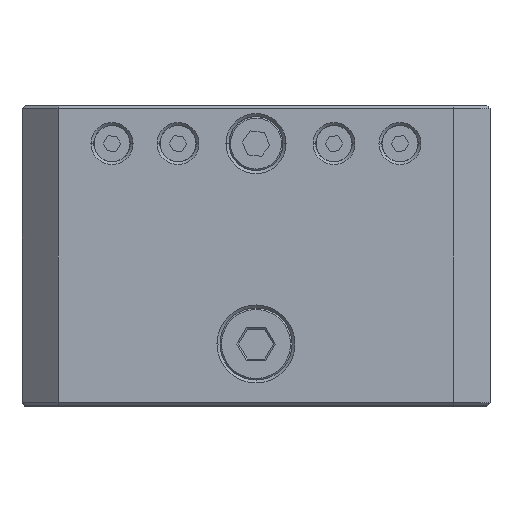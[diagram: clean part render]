
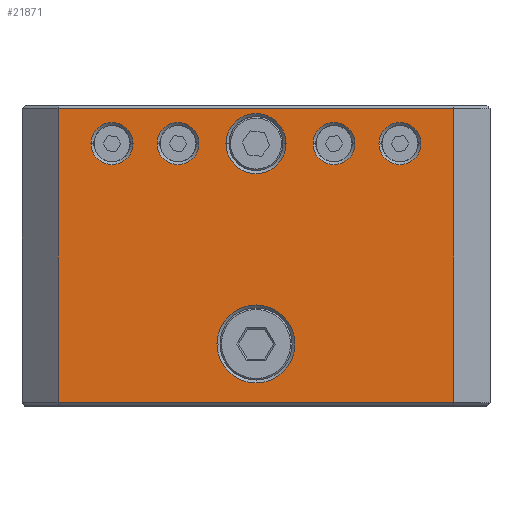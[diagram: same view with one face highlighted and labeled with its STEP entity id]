
A CAD part, top view. The second image highlights one B-rep face of the part: STEP entity #21871.
In plain terms, the highlighted planar face has unit normal (0, 0, 1).
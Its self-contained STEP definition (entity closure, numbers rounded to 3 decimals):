
#102 = ORIENTED_EDGE ( 'NONE', *, *, #7556, .T. ) ;
#172 = VERTEX_POINT ( 'NONE', #8548 ) ;
#338 = DIRECTION ( 'NONE',  ( 0., 0., -1. ) ) ;
#567 = PLANE ( 'NONE',  #7330 ) ;
#603 = EDGE_CURVE ( 'NONE', #10288, #172, #17571, .T. ) ;
#685 = DIRECTION ( 'NONE',  ( 0., 0., -1. ) ) ;
#795 = FACE_BOUND ( 'NONE', #2173, .T. ) ;
#829 = EDGE_CURVE ( 'NONE', #10880, #5640, #11421, .T. ) ;
#1545 = EDGE_CURVE ( 'NONE', #4424, #10068, #8769, .T. ) ;
#2173 = EDGE_LOOP ( 'NONE', ( #6449, #22894 ) ) ;
#2210 = AXIS2_PLACEMENT_3D ( 'NONE', #6385, #13496, #11744 ) ;
#2257 = EDGE_CURVE ( 'NONE', #5640, #10880, #17180, .T. ) ;
#2349 = DIRECTION ( 'NONE',  ( 0., 0., -1. ) ) ;
#2355 = EDGE_LOOP ( 'NONE', ( #17687, #13151 ) ) ;
#2377 = CARTESIAN_POINT ( 'NONE',  ( 66., 1., 96. ) ) ;
#2574 = FACE_BOUND ( 'NONE', #5787, .T. ) ;
#2609 = VERTEX_POINT ( 'NONE', #14057 ) ;
#2866 = VECTOR ( 'NONE', #9357, 1000. ) ;
#3048 = CARTESIAN_POINT ( 'NONE',  ( -10., 87.3, 96. ) ) ;
#3236 = ORIENTED_EDGE ( 'NONE', *, *, #15574, .T. ) ;
#3380 = LINE ( 'NONE', #8557, #19567 ) ;
#3527 = CARTESIAN_POINT ( 'NONE',  ( 0., 87.3, 96. ) ) ;
#4060 = EDGE_CURVE ( 'NONE', #13694, #21447, #9631, .T. ) ;
#4195 = DIRECTION ( 'NONE',  ( -1., 0., 0. ) ) ;
#4287 = CIRCLE ( 'NONE', #18517, 13. ) ;
#4424 = VERTEX_POINT ( 'NONE', #21079 ) ;
#4613 = CARTESIAN_POINT ( 'NONE',  ( 55., 87.3, 96. ) ) ;
#4660 = VERTEX_POINT ( 'NONE', #16474 ) ;
#4671 = CIRCLE ( 'NONE', #12129, 7. ) ;
#5640 = VERTEX_POINT ( 'NONE', #6509 ) ;
#5787 = EDGE_LOOP ( 'NONE', ( #12271, #3236 ) ) ;
#5829 = DIRECTION ( 'NONE',  ( 0., 0., -1. ) ) ;
#5889 = CARTESIAN_POINT ( 'NONE',  ( 0., 87.3, 96. ) ) ;
#5945 = AXIS2_PLACEMENT_3D ( 'NONE', #16520, #13200, #4195 ) ;
#6020 = EDGE_LOOP ( 'NONE', ( #17528, #23115 ) ) ;
#6245 = VERTEX_POINT ( 'NONE', #2377 ) ;
#6385 = CARTESIAN_POINT ( 'NONE',  ( 26., 87.3, 96. ) ) ;
#6424 = CARTESIAN_POINT ( 'NONE',  ( 13., 20.5, 96. ) ) ;
#6449 = ORIENTED_EDGE ( 'NONE', *, *, #2257, .T. ) ;
#6492 = DIRECTION ( 'NONE',  ( 1., 0., 0. ) ) ;
#6509 = CARTESIAN_POINT ( 'NONE',  ( -19., 87.3, 96. ) ) ;
#7265 = DIRECTION ( 'NONE',  ( -1., 0., 0. ) ) ;
#7330 = AXIS2_PLACEMENT_3D ( 'NONE', #22054, #685, #13142 ) ;
#7398 = CARTESIAN_POINT ( 'NONE',  ( -66., 100., 96. ) ) ;
#7526 = DIRECTION ( 'NONE',  ( 0., 0., -1. ) ) ;
#7556 = EDGE_CURVE ( 'NONE', #6245, #4424, #3380, .T. ) ;
#7699 = CARTESIAN_POINT ( 'NONE',  ( 0., 20.5, 96. ) ) ;
#7809 = AXIS2_PLACEMENT_3D ( 'NONE', #9899, #8017, #11650 ) ;
#8017 = DIRECTION ( 'NONE',  ( 0., 0., -1. ) ) ;
#8196 = CIRCLE ( 'NONE', #21294, 7. ) ;
#8392 = AXIS2_PLACEMENT_3D ( 'NONE', #7699, #22220, #18844 ) ;
#8548 = CARTESIAN_POINT ( 'NONE',  ( 19., 87.3, 96. ) ) ;
#8557 = CARTESIAN_POINT ( 'NONE',  ( 66., 100., 96. ) ) ;
#8675 = EDGE_CURVE ( 'NONE', #2609, #19446, #18330, .T. ) ;
#8762 = CIRCLE ( 'NONE', #12874, 10. ) ;
#8769 = LINE ( 'NONE', #15917, #2866 ) ;
#9038 = CARTESIAN_POINT ( 'NONE',  ( -48., 87.3, 96. ) ) ;
#9040 = ORIENTED_EDGE ( 'NONE', *, *, #8675, .T. ) ;
#9118 = VERTEX_POINT ( 'NONE', #14842 ) ;
#9357 = DIRECTION ( 'NONE',  ( -1., 0., 0. ) ) ;
#9404 = FACE_BOUND ( 'NONE', #14009, .T. ) ;
#9509 = FACE_BOUND ( 'NONE', #2355, .T. ) ;
#9516 = CIRCLE ( 'NONE', #8392, 13. ) ;
#9631 = CIRCLE ( 'NONE', #21273, 10. ) ;
#9742 = FACE_OUTER_BOUND ( 'NONE', #12025, .T. ) ;
#9899 = CARTESIAN_POINT ( 'NONE',  ( -48., 87.3, 96. ) ) ;
#10034 = EDGE_LOOP ( 'NONE', ( #13743, #10808 ) ) ;
#10068 = VERTEX_POINT ( 'NONE', #11328 ) ;
#10108 = EDGE_CURVE ( 'NONE', #12022, #4660, #8196, .T. ) ;
#10288 = VERTEX_POINT ( 'NONE', #16256 ) ;
#10299 = DIRECTION ( 'NONE',  ( 0., 0., -1. ) ) ;
#10703 = DIRECTION ( 'NONE',  ( 0., 0., -1. ) ) ;
#10796 = EDGE_CURVE ( 'NONE', #9118, #12219, #9516, .T. ) ;
#10808 = ORIENTED_EDGE ( 'NONE', *, *, #19512, .T. ) ;
#10880 = VERTEX_POINT ( 'NONE', #13537 ) ;
#10888 = CARTESIAN_POINT ( 'NONE',  ( 48., 87.3, 96. ) ) ;
#11074 = EDGE_CURVE ( 'NONE', #19446, #2609, #4671, .T. ) ;
#11275 = FACE_BOUND ( 'NONE', #10034, .T. ) ;
#11328 = CARTESIAN_POINT ( 'NONE',  ( -66., 99., 96. ) ) ;
#11389 = CARTESIAN_POINT ( 'NONE',  ( 0., 20.5, 96. ) ) ;
#11421 = CIRCLE ( 'NONE', #18934, 7. ) ;
#11650 = DIRECTION ( 'NONE',  ( -1., 0., 0. ) ) ;
#11744 = DIRECTION ( 'NONE',  ( -1., 0., 0. ) ) ;
#11858 = AXIS2_PLACEMENT_3D ( 'NONE', #16102, #338, #21471 ) ;
#12022 = VERTEX_POINT ( 'NONE', #4613 ) ;
#12025 = EDGE_LOOP ( 'NONE', ( #14193, #22877, #102, #16075 ) ) ;
#12129 = AXIS2_PLACEMENT_3D ( 'NONE', #9038, #13957, #7265 ) ;
#12219 = VERTEX_POINT ( 'NONE', #6424 ) ;
#12271 = ORIENTED_EDGE ( 'NONE', *, *, #4060, .T. ) ;
#12703 = ORIENTED_EDGE ( 'NONE', *, *, #11074, .T. ) ;
#12874 = AXIS2_PLACEMENT_3D ( 'NONE', #5889, #2349, #20408 ) ;
#12902 = CARTESIAN_POINT ( 'NONE',  ( 10., 87.3, 96. ) ) ;
#13142 = DIRECTION ( 'NONE',  ( -1., 0., 0. ) ) ;
#13151 = ORIENTED_EDGE ( 'NONE', *, *, #10796, .T. ) ;
#13200 = DIRECTION ( 'NONE',  ( 0., 0., -1. ) ) ;
#13496 = DIRECTION ( 'NONE',  ( 0., 0., -1. ) ) ;
#13537 = CARTESIAN_POINT ( 'NONE',  ( -33., 87.3, 96. ) ) ;
#13694 = VERTEX_POINT ( 'NONE', #12902 ) ;
#13733 = CARTESIAN_POINT ( 'NONE',  ( -66., 1., 96. ) ) ;
#13743 = ORIENTED_EDGE ( 'NONE', *, *, #603, .T. ) ;
#13936 = EDGE_CURVE ( 'NONE', #4660, #12022, #16902, .T. ) ;
#13957 = DIRECTION ( 'NONE',  ( 0., 0., -1. ) ) ;
#14009 = EDGE_LOOP ( 'NONE', ( #9040, #12703 ) ) ;
#14057 = CARTESIAN_POINT ( 'NONE',  ( -41., 87.3, 96. ) ) ;
#14193 = ORIENTED_EDGE ( 'NONE', *, *, #20174, .T. ) ;
#14565 = DIRECTION ( 'NONE',  ( 0., -1., 0. ) ) ;
#14842 = CARTESIAN_POINT ( 'NONE',  ( -13., 20.5, 96. ) ) ;
#15481 = EDGE_CURVE ( 'NONE', #12219, #9118, #4287, .T. ) ;
#15574 = EDGE_CURVE ( 'NONE', #21447, #13694, #8762, .T. ) ;
#15903 = VECTOR ( 'NONE', #6492, 1000. ) ;
#15917 = CARTESIAN_POINT ( 'NONE',  ( -66., 99., 96. ) ) ;
#15977 = LINE ( 'NONE', #17402, #15903 ) ;
#16024 = CARTESIAN_POINT ( 'NONE',  ( 48., 87.3, 96. ) ) ;
#16075 = ORIENTED_EDGE ( 'NONE', *, *, #1545, .T. ) ;
#16102 = CARTESIAN_POINT ( 'NONE',  ( 26., 87.3, 96. ) ) ;
#16256 = CARTESIAN_POINT ( 'NONE',  ( 33., 87.3, 96. ) ) ;
#16455 = CARTESIAN_POINT ( 'NONE',  ( -26., 87.3, 96. ) ) ;
#16474 = CARTESIAN_POINT ( 'NONE',  ( 41., 87.3, 96. ) ) ;
#16520 = CARTESIAN_POINT ( 'NONE',  ( -26., 87.3, 96. ) ) ;
#16902 = CIRCLE ( 'NONE', #19131, 7. ) ;
#17180 = CIRCLE ( 'NONE', #5945, 7. ) ;
#17402 = CARTESIAN_POINT ( 'NONE',  ( -78., 1., 96. ) ) ;
#17464 = DIRECTION ( 'NONE',  ( 0., 1., 0. ) ) ;
#17528 = ORIENTED_EDGE ( 'NONE', *, *, #10108, .T. ) ;
#17571 = CIRCLE ( 'NONE', #2210, 7. ) ;
#17687 = ORIENTED_EDGE ( 'NONE', *, *, #15481, .T. ) ;
#17846 = DIRECTION ( 'NONE',  ( -1., 0., 0. ) ) ;
#18089 = LINE ( 'NONE', #7398, #21971 ) ;
#18330 = CIRCLE ( 'NONE', #7809, 7. ) ;
#18463 = CARTESIAN_POINT ( 'NONE',  ( -55., 87.3, 96. ) ) ;
#18480 = EDGE_CURVE ( 'NONE', #19457, #6245, #15977, .T. ) ;
#18517 = AXIS2_PLACEMENT_3D ( 'NONE', #11389, #18559, #21942 ) ;
#18559 = DIRECTION ( 'NONE',  ( 0., 0., -1. ) ) ;
#18844 = DIRECTION ( 'NONE',  ( -1., 0., 0. ) ) ;
#18934 = AXIS2_PLACEMENT_3D ( 'NONE', #16455, #7526, #20072 ) ;
#19131 = AXIS2_PLACEMENT_3D ( 'NONE', #16024, #10299, #22826 ) ;
#19446 = VERTEX_POINT ( 'NONE', #18463 ) ;
#19457 = VERTEX_POINT ( 'NONE', #13733 ) ;
#19512 = EDGE_CURVE ( 'NONE', #172, #10288, #21973, .T. ) ;
#19567 = VECTOR ( 'NONE', #17464, 1000. ) ;
#20072 = DIRECTION ( 'NONE',  ( -1., 0., 0. ) ) ;
#20174 = EDGE_CURVE ( 'NONE', #10068, #19457, #18089, .T. ) ;
#20290 = FACE_BOUND ( 'NONE', #6020, .T. ) ;
#20408 = DIRECTION ( 'NONE',  ( -1., 0., 0. ) ) ;
#21079 = CARTESIAN_POINT ( 'NONE',  ( 66., 99., 96. ) ) ;
#21273 = AXIS2_PLACEMENT_3D ( 'NONE', #3527, #10703, #17846 ) ;
#21294 = AXIS2_PLACEMENT_3D ( 'NONE', #10888, #5829, #21536 ) ;
#21447 = VERTEX_POINT ( 'NONE', #3048 ) ;
#21471 = DIRECTION ( 'NONE',  ( -1., 0., 0. ) ) ;
#21536 = DIRECTION ( 'NONE',  ( -1., 0., 0. ) ) ;
#21871 = ADVANCED_FACE ( 'NONE', ( #9509, #20290, #11275, #2574, #795, #9404, #9742 ), #567, .F. ) ;
#21942 = DIRECTION ( 'NONE',  ( -1., 0., 0. ) ) ;
#21971 = VECTOR ( 'NONE', #14565, 1000. ) ;
#21973 = CIRCLE ( 'NONE', #11858, 7. ) ;
#22054 = CARTESIAN_POINT ( 'NONE',  ( -78., 100., 96. ) ) ;
#22220 = DIRECTION ( 'NONE',  ( 0., 0., -1. ) ) ;
#22826 = DIRECTION ( 'NONE',  ( -1., 0., 0. ) ) ;
#22877 = ORIENTED_EDGE ( 'NONE', *, *, #18480, .T. ) ;
#22894 = ORIENTED_EDGE ( 'NONE', *, *, #829, .T. ) ;
#23115 = ORIENTED_EDGE ( 'NONE', *, *, #13936, .T. ) ;
